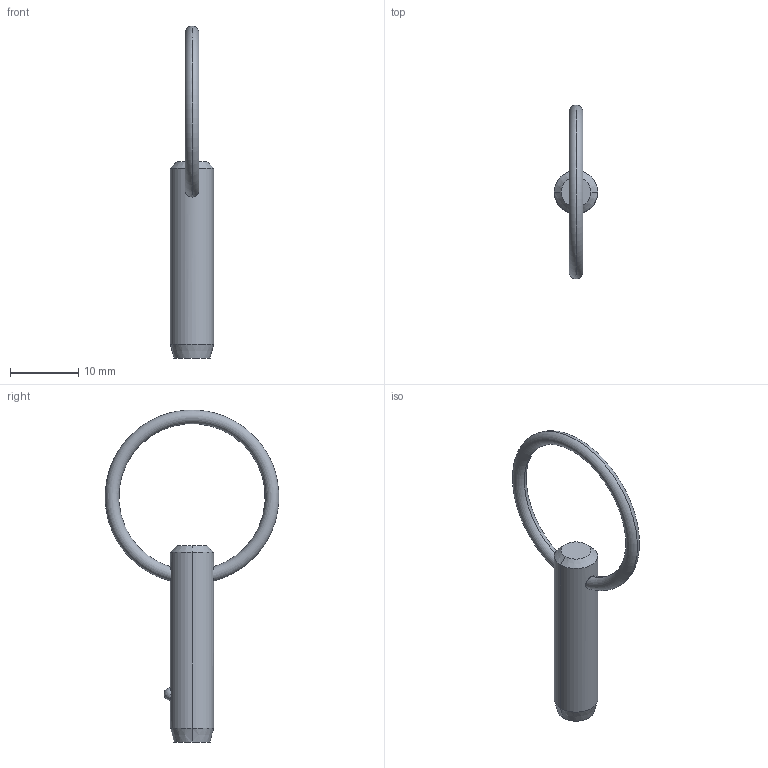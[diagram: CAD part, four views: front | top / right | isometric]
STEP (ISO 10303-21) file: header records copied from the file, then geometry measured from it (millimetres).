
FILE_DESCRIPTION (( 'STEP AP203' ), '1' );
FILE_NAME ('P1250.025-060.step', '2019-07-29T19:38:47', ( '' ), ( '' ), 'SwSTEP 2.0', 'SolidWorks 2017', '' );
FILE_SCHEMA (( 'CONFIG_CONTROL_DESIGN' ));
Length unit declared in the file: millimetre
Products named in the file (1): P1250.025-060
Bounding box: 6.35 x 25.38 x 48.52 mm (x, y, z)
Volume: 1102.6 mm3; surface area: 1029.9 mm2
Topology: 1 solids, 1 shells, 12 faces, 28 edges, 17 vertices
Faces by surface type: cone 4, torus 2, sphere 2, cylinder 2, plane 2
Entity records: 481 total; most frequent: CARTESIAN_POINT 148, DIRECTION 56, ORIENTED_EDGE 48, AXIS2_PLACEMENT_3D 25, EDGE_CURVE 24, VERTEX_POINT 15, EDGE_LOOP 15, FACE_OUTER_BOUND 12
